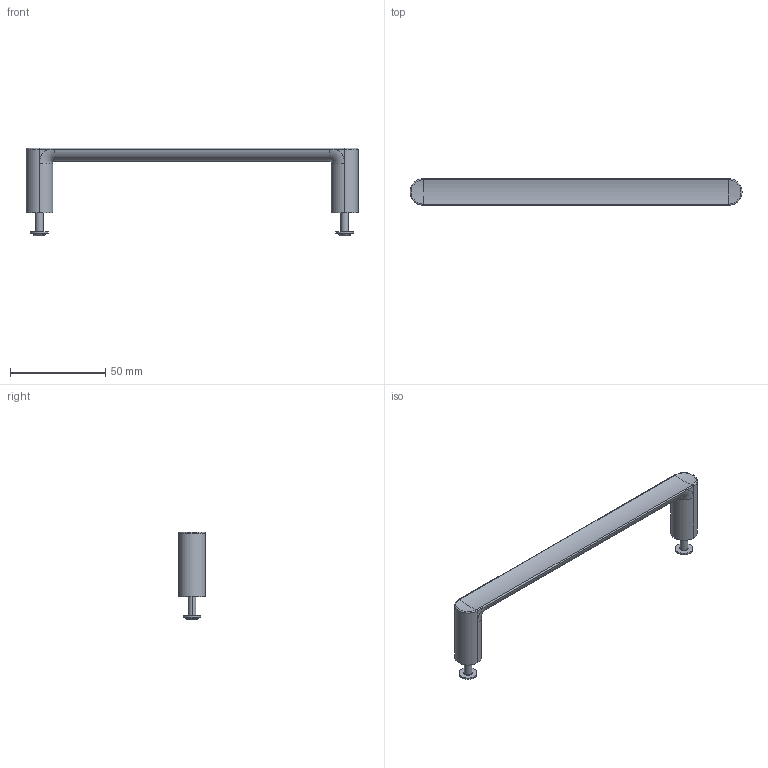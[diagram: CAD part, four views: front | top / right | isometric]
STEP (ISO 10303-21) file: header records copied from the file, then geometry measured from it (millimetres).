
FILE_DESCRIPTION((''),'2;1');
FILE_NAME('48751--00_SUB01_ASM','2024-10-25T11:05:30',('clra1'),(''),'CREO PARAMETRIC BY PTC INC, 2022244','CREO PARAMETRIC BY PTC INC, 2022244','');
FILE_SCHEMA(('CONFIG_CONTROL_DESIGN'));
Length unit declared in the file: millimetre
Products named in the file (3): 46757--; 4674900; 48751--00_SUB01_ASM
Assembly tree (3 placements, depth 2):
  48751--00_SUB01_ASM
    46757--
    4674900  x2
Bounding box: 174 x 14 x 46.06 mm (x, y, z)
Volume: 20847.5 mm3; surface area: 10167.8 mm2
Topology: 3 solids, 3 shells, 108 faces, 272 edges, 168 vertices
Faces by surface type: cylinder 44, cone 28, plane 14, torus 12, bspline 8, sphere 2
Entity records: 2497 total; most frequent: CARTESIAN_POINT 838, DIRECTION 334, ORIENTED_EDGE 330, EDGE_CURVE 165, AXIS2_PLACEMENT_3D 143, VERTEX_POINT 104, EDGE_LOOP 75, CIRCLE 71
